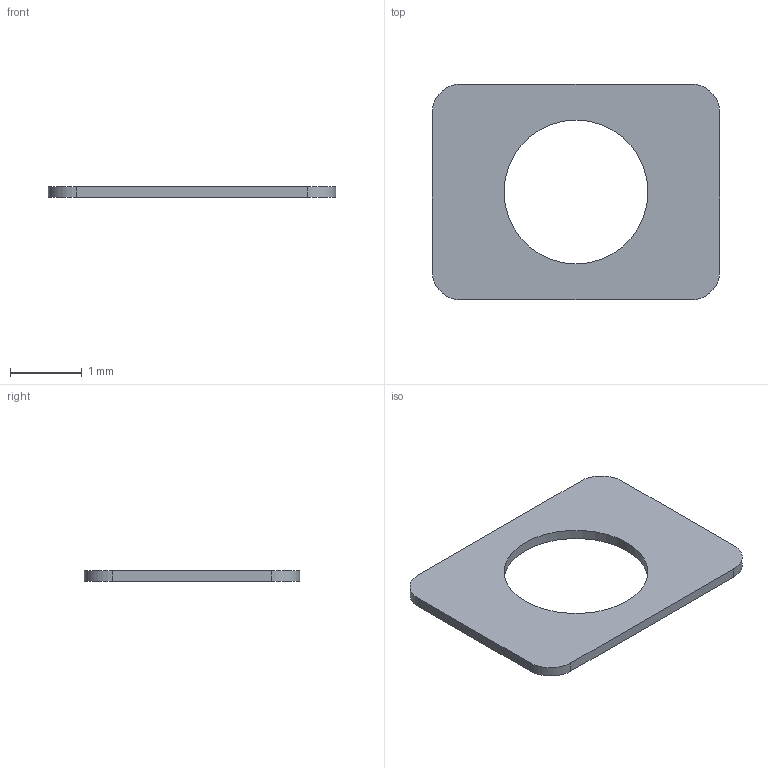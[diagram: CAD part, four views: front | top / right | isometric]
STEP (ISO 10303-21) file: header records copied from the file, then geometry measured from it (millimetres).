
FILE_DESCRIPTION(('Open CASCADE Model'),'2;1');
FILE_NAME('Open CASCADE Shape Model','2026-09-09T12:58:10',('Author'),( 'Open CASCADE'),'Open CASCADE STEP processor 7.9','Open CASCADE 7.9' ,'Unknown');
FILE_SCHEMA(('AUTOMOTIVE_DESIGN { 1 0 10303 214 1 1 1 1 }'));
Length unit declared in the file: millimetre
Products named in the file (1): Open CASCADE STEP translator 7.9 22
Bounding box: 4 x 3 x 0.14 mm (x, y, z)
Volume: 1.2 mm3; surface area: 20.2 mm2
Topology: 1 solids, 1 shells, 11 faces, 27 edges, 18 vertices
Faces by surface type: plane 6, cylinder 5
Full cylindrical faces by diameter (mm): 2 x1
Entity records: 714 total; most frequent: CARTESIAN_POINT 147, DIRECTION 109, LINE 61, VECTOR 61, ORIENTED_EDGE 54, PCURVE 54, DEFINITIONAL_REPRESENTATION 54, EDGE_CURVE 27
